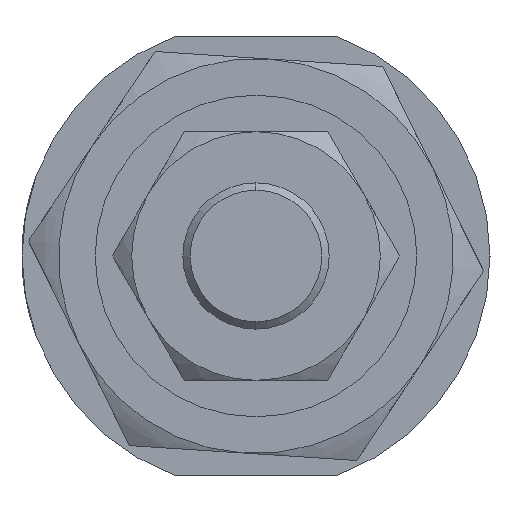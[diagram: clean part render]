
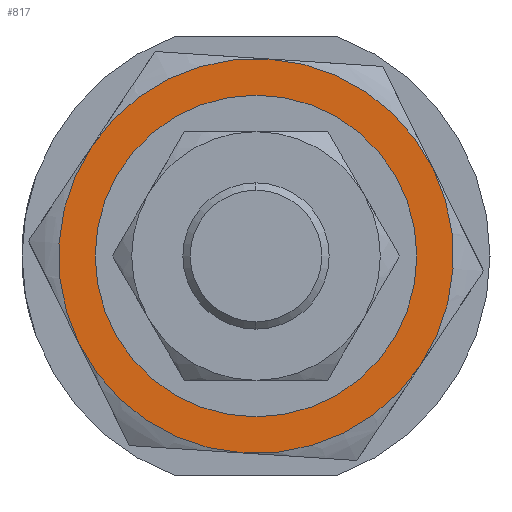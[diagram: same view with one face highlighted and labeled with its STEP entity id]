
A CAD part, left-side view. The second image highlights one B-rep face of the part: STEP entity #817.
In plain terms, the highlighted planar face has unit normal (-1, 0, 0) as drawn and (0, 0, -1) by its records, which use the part's own axes.
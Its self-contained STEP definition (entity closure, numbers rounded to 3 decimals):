
#27 = EDGE_LOOP ( 'NONE', ( #2652, #2534, #1762, #1798, #972, #2647 ) ) ;
#43 = VERTEX_POINT ( 'NONE', #2153 ) ;
#51 = DIRECTION ( 'NONE',  ( 1., 0., 0. ) ) ;
#80 = CARTESIAN_POINT ( 'NONE',  ( 6.75, -11.691, -5. ) ) ;
#93 = AXIS2_PLACEMENT_3D ( 'NONE', #3287, #344, #2233 ) ;
#105 = CARTESIAN_POINT ( 'NONE',  ( 0., 0., -5. ) ) ;
#159 = CIRCLE ( 'NONE', #3339, 13.5 ) ;
#171 = EDGE_CURVE ( 'NONE', #1989, #983, #3376, .T. ) ;
#202 = CARTESIAN_POINT ( 'NONE',  ( 13.5, 0., -5. ) ) ;
#240 = CARTESIAN_POINT ( 'NONE',  ( -10., 0., -5. ) ) ;
#263 = AXIS2_PLACEMENT_3D ( 'NONE', #390, #2068, #2336 ) ;
#333 = DIRECTION ( 'NONE',  ( 0., 0., 1. ) ) ;
#344 = DIRECTION ( 'NONE',  ( 0., 0., 1. ) ) ;
#359 = EDGE_LOOP ( 'NONE', ( #2519, #1920 ) ) ;
#390 = CARTESIAN_POINT ( 'NONE',  ( 0., 0., -5. ) ) ;
#412 = CIRCLE ( 'NONE', #263, 13.5 ) ;
#420 = AXIS2_PLACEMENT_3D ( 'NONE', #553, #2441, #960 ) ;
#448 = PLANE ( 'NONE',  #93 ) ;
#553 = CARTESIAN_POINT ( 'NONE',  ( 0., 0., -5. ) ) ;
#590 = CARTESIAN_POINT ( 'NONE',  ( 0., 0., -5. ) ) ;
#594 = DIRECTION ( 'NONE',  ( 0., 0., 1. ) ) ;
#604 = EDGE_CURVE ( 'NONE', #970, #866, #606, .T. ) ;
#606 = CIRCLE ( 'NONE', #2889, 10. ) ;
#620 = VERTEX_POINT ( 'NONE', #797 ) ;
#639 = DIRECTION ( 'NONE',  ( 0., 0., 1. ) ) ;
#770 = EDGE_CURVE ( 'NONE', #866, #970, #3343, .T. ) ;
#797 = CARTESIAN_POINT ( 'NONE',  ( 6.75, 11.691, -5. ) ) ;
#817 = ADVANCED_FACE ( 'NONE', ( #1961, #3345 ), #448, .F. ) ;
#860 = AXIS2_PLACEMENT_3D ( 'NONE', #590, #1664, #51 ) ;
#866 = VERTEX_POINT ( 'NONE', #1251 ) ;
#960 = DIRECTION ( 'NONE',  ( 1., 0., 0. ) ) ;
#970 = VERTEX_POINT ( 'NONE', #240 ) ;
#972 = ORIENTED_EDGE ( 'NONE', *, *, #171, .F. ) ;
#983 = VERTEX_POINT ( 'NONE', #1212 ) ;
#1176 = DIRECTION ( 'NONE',  ( 1., 0., 0. ) ) ;
#1209 = VERTEX_POINT ( 'NONE', #202 ) ;
#1212 = CARTESIAN_POINT ( 'NONE',  ( -13.5, 0., -5. ) ) ;
#1237 = DIRECTION ( 'NONE',  ( 1., 0., 0. ) ) ;
#1251 = CARTESIAN_POINT ( 'NONE',  ( 10., 0., -5. ) ) ;
#1444 = CIRCLE ( 'NONE', #2101, 13.5 ) ;
#1453 = AXIS2_PLACEMENT_3D ( 'NONE', #3315, #2108, #2371 ) ;
#1493 = EDGE_CURVE ( 'NONE', #620, #1989, #412, .T. ) ;
#1602 = CARTESIAN_POINT ( 'NONE',  ( 0., 0., -5. ) ) ;
#1664 = DIRECTION ( 'NONE',  ( 0., 0., 1. ) ) ;
#1679 = EDGE_CURVE ( 'NONE', #983, #43, #2871, .T. ) ;
#1684 = AXIS2_PLACEMENT_3D ( 'NONE', #2724, #639, #2900 ) ;
#1762 = ORIENTED_EDGE ( 'NONE', *, *, #3058, .F. ) ;
#1798 = ORIENTED_EDGE ( 'NONE', *, *, #1679, .F. ) ;
#1920 = ORIENTED_EDGE ( 'NONE', *, *, #604, .T. ) ;
#1961 = FACE_BOUND ( 'NONE', #359, .T. ) ;
#1989 = VERTEX_POINT ( 'NONE', #2721 ) ;
#2068 = DIRECTION ( 'NONE',  ( 0., 0., 1. ) ) ;
#2074 = CIRCLE ( 'NONE', #1453, 13.5 ) ;
#2101 = AXIS2_PLACEMENT_3D ( 'NONE', #1602, #594, #2372 ) ;
#2108 = DIRECTION ( 'NONE',  ( 0., 0., 1. ) ) ;
#2153 = CARTESIAN_POINT ( 'NONE',  ( -6.75, -11.691, -5. ) ) ;
#2233 = DIRECTION ( 'NONE',  ( 1., 0., 0. ) ) ;
#2336 = DIRECTION ( 'NONE',  ( 1., 0., 0. ) ) ;
#2371 = DIRECTION ( 'NONE',  ( 1., 0., 0. ) ) ;
#2372 = DIRECTION ( 'NONE',  ( 1., 0., 0. ) ) ;
#2381 = CARTESIAN_POINT ( 'NONE',  ( 0., 0., -5. ) ) ;
#2406 = VERTEX_POINT ( 'NONE', #80 ) ;
#2441 = DIRECTION ( 'NONE',  ( 0., 0., 1. ) ) ;
#2519 = ORIENTED_EDGE ( 'NONE', *, *, #770, .T. ) ;
#2534 = ORIENTED_EDGE ( 'NONE', *, *, #2866, .F. ) ;
#2552 = EDGE_CURVE ( 'NONE', #1209, #620, #159, .T. ) ;
#2647 = ORIENTED_EDGE ( 'NONE', *, *, #1493, .F. ) ;
#2652 = ORIENTED_EDGE ( 'NONE', *, *, #2552, .F. ) ;
#2721 = CARTESIAN_POINT ( 'NONE',  ( -6.75, 11.691, -5. ) ) ;
#2724 = CARTESIAN_POINT ( 'NONE',  ( 0., 0., -5. ) ) ;
#2866 = EDGE_CURVE ( 'NONE', #2406, #1209, #2074, .T. ) ;
#2871 = CIRCLE ( 'NONE', #1684, 13.5 ) ;
#2889 = AXIS2_PLACEMENT_3D ( 'NONE', #105, #2899, #1237 ) ;
#2899 = DIRECTION ( 'NONE',  ( 0., 0., 1. ) ) ;
#2900 = DIRECTION ( 'NONE',  ( 1., 0., 0. ) ) ;
#3058 = EDGE_CURVE ( 'NONE', #43, #2406, #1444, .T. ) ;
#3287 = CARTESIAN_POINT ( 'NONE',  ( 0., 0., -5. ) ) ;
#3315 = CARTESIAN_POINT ( 'NONE',  ( 0., 0., -5. ) ) ;
#3339 = AXIS2_PLACEMENT_3D ( 'NONE', #2381, #333, #1176 ) ;
#3343 = CIRCLE ( 'NONE', #420, 10. ) ;
#3345 = FACE_OUTER_BOUND ( 'NONE', #27, .T. ) ;
#3376 = CIRCLE ( 'NONE', #860, 13.5 ) ;
